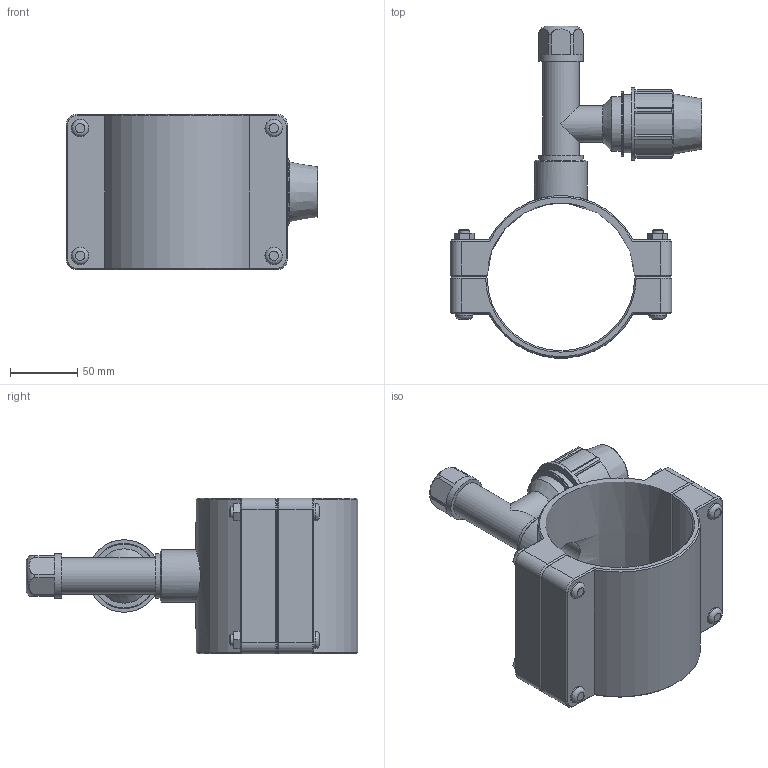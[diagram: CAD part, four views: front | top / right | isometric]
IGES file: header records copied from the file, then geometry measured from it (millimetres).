
Global section: file name: 165400110025_165406110025.ipt; native system: Autodesk Inventor 2015; preprocessor: unknown; author: KIM; date: 20170618.093914; units: millimetre
Bounding box: 187.5 x 247.28 x 116 mm (x, y, z)
Volume: 668003.3 mm3; surface area: 163008.7 mm2
Topology: 1 solids, 1 shells, 232 faces, 582 edges, 378 vertices
Faces by surface type: plane 145, cylinder 42, cone 28, revolution 17
Full cylindrical faces by diameter (mm): 8 x4, 13 x8, 27.262 x2, 30.291 x1, 33.32 x2, 39.378 x1, 40.5 x1, 43.2 x1, 48.6 x1, 54 x1
